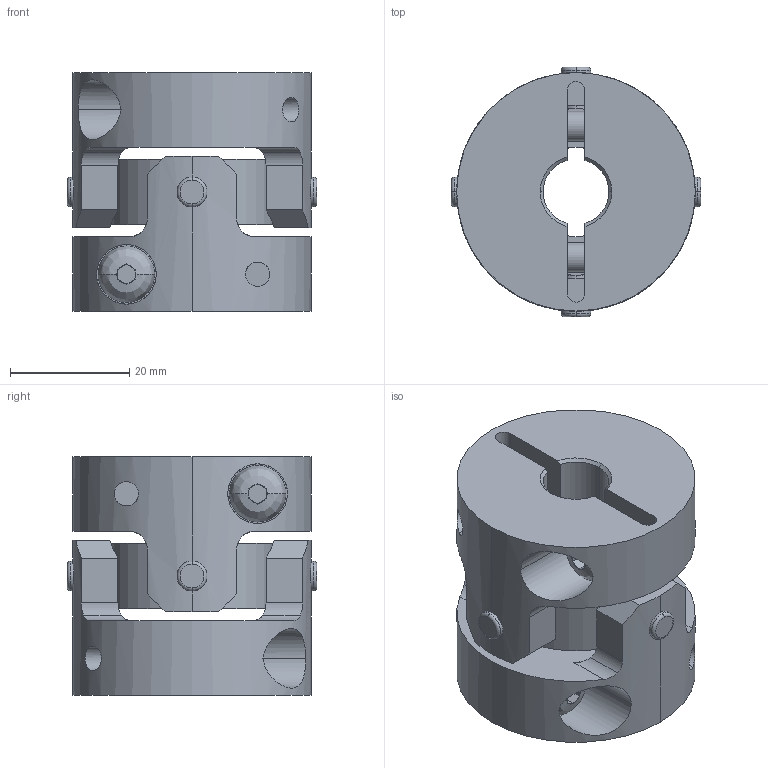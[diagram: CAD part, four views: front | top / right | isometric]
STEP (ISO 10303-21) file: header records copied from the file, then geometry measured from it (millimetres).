
FILE_DESCRIPTION((''),'2;1');
FILE_NAME('UA-40C-11×16.stp','2013-05-22T09:38:37',(''),(''),'AutoCAD STEP 2000i','AutoCAD 2000i',', , ');
FILE_SCHEMA(('CONFIG_CONTROL_DESIGN'));
Length unit declared in the file: millimetre
Products named in the file (6): UA-40C-8×8; 忣兜1; UA-4002-D08-1; BTN-M5; UA-4002-D08; UA40-SEN
Assembly tree (6 placements, depth 3):
  UA-40C-8×8
    忣兜1
    UA-4002-D08-1
      BTN-M5
    UA-4002-D08
      BTN-M5
    UA40-SEN
Bounding box: 41.81 x 41.81 x 40 mm (x, y, z)
Volume: 33183.6 mm3; surface area: 15500 mm2
Topology: 1 solids, 1 shells, 250 faces, 646 edges, 408 vertices
Faces by surface type: plane 122, cylinder 96, cone 16, bspline 8, torus 8
Entity records: 9627 total; most frequent: CARTESIAN_POINT 3371, ORIENTED_EDGE 1292, DIRECTION 1288, EDGE_CURVE 646, AXIS2_PLACEMENT_3D 497, VERTEX_POINT 408, VECTOR 294, LINE 294
